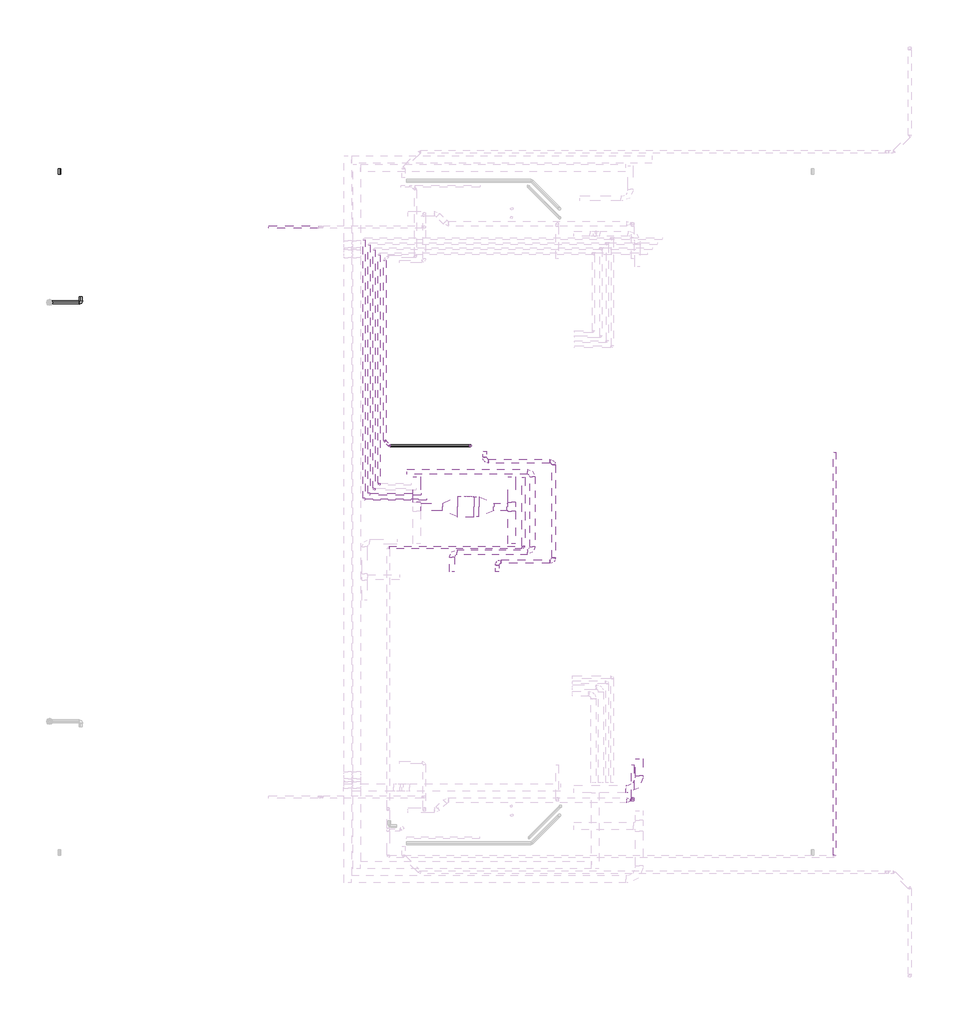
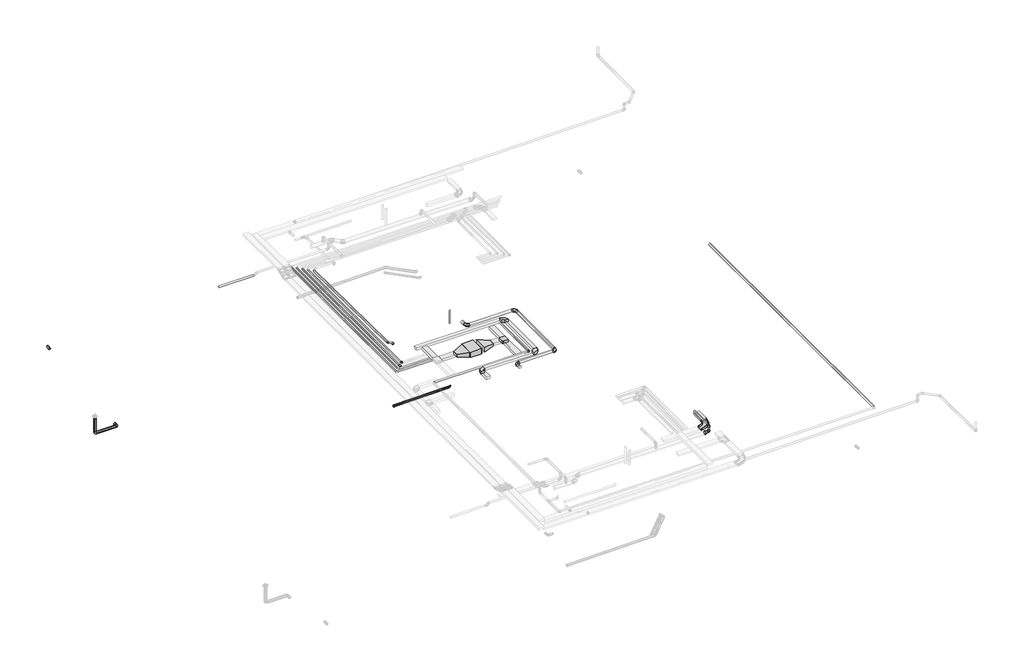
# One storey, part 3 of 5: 18 duct segments, 17 pipe segments, 13 duct fittings, 9 pipe fittings, 1 cable carrier fitting, 1 cable carrier segment, 1 proxy.
"""IFC4 building model written with IfcOpenShell, lengths in millimetres."""

from ifc_helpers import new_model, si_unit, point, frame, frame_2d, origin, place, context, project, spatial, polyline, circle_curve, trimmed, segment, composite_curve, outline, extrude, transform, mapped, element, save
from components import fc01_db58e849, m_codo_horizontal_de_canal_el_5b0e7b07, duct_fitting_9d984206, duct_fitting_e8ecb067, duct_fitting_4802cc83, ext_95de42ea, m_codo_rectangular_radio_apt_1_w_a605e9b7, m_codo_redondo_ext_1_d_fe658834, m_codo_redondo_ext_1_d_96ea52f9, pipe_fitting_8e92d537, pipe_fitting_e4fb672d, pipe_fitting_932eafa3, pipe_fitting_7b861d32, pipe_fitting_a8c499ec, pipe_fitting_f5d6ed74, pipe_fitting_3a68447e, pipe_fitting_87aeffad

model = new_model("IFC4")

# Units and contexts
model_context = context("Model", 3, world=origin())
ifc_project = project(units=[si_unit("LENGTHUNIT", "METRE", prefix="MILLI")], contexts=[model_context])

# Site, building, storey
site = spatial("IfcSite", under=ifc_project)
building = spatial("IfcBuilding", under=site)
storey = spatial("IfcBuildingStorey", under=building, Name="Nivell 03 P03_PP", Elevation=18660.0)

# Proxy
placement = place(None, origin())
fc01_shape = fc01_db58e849(model_context)
element("IfcBuildingElementProxy", 1, Name="ARC_MDL_ME_UI_FC_ConducteSostre : FC01", ObjectType="ARC_MDL_ME_UI_FC_ConducteSostre : FC01", at=placement, inside=storey, context=model_context, shape_type="MappedRepresentation", body=[
    mapped(fc01_shape, transform((9681.3112506, -4290.0827616, 21769.6198525), x_axis=(-5.108879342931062e-05, -0.9999999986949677, 0.0), y_axis=(0.9999999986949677, -5.108879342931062e-05, 0.0), z_axis=(0.0, 0.0, 1.0))),
])

# Cable carrier fitting
m_codo_horizontal_de_canal_el_shape = m_codo_horizontal_de_canal_el_5b0e7b07(model_context)
element("IfcCableCarrierFitting", 2, ObjectType="M_Codo horizontal de canal : EL", at=placement, inside=storey, context=model_context, shape_type="MappedRepresentation", body=[
    mapped(m_codo_horizontal_de_canal_el_shape, transform((16614.6624278, -15521.1304394, 21760.0), x_axis=(1.0, 0.0, 0.0), y_axis=(0.0, 1.0, 0.0), z_axis=(0.0, 0.0, 1.0))),
])

# Cable carrier segment
element("IfcCableCarrierSegment", 3, ObjectType="EL", at=placement, inside=storey, context=model_context, shape_type="SweptSolid", body=[
    extrude(outline(polyline([(16464.6624278, -14321.1304394), (16764.6624278, -14321.1304394), (16764.6624278, -14996.1304394), (16464.6624278, -14996.1304394), (16464.6624278, -14321.1304394)])), frame((0.0, 0.0, 21710.0), z_axis=(0.0, 0.0, 1.0), x_axis=(1.0, 0.0, 0.0)), (0.0, 0.0, 1.0), 100.0),
])

# Duct fittings
duct_fitting_shape = duct_fitting_9d984206(model_context)
element("IfcDuctFitting", 4, ObjectType="M_Transición redonda - Ángulo : EXT_45 graus", at=placement, inside=storey, context=model_context, shape_type="MappedRepresentation", body=[
    mapped(duct_fitting_shape, transform((16250.5896993, -15972.9719502, 21740.0), x_axis=(-1.0, 0.0, 0.0), y_axis=(0.0, -1.0, 0.0), z_axis=(0.0, 0.0, 1.0))),
])
duct_fitting_2_shape = duct_fitting_e8ecb067(model_context)
element("IfcDuctFitting", 5, ObjectType="M_Transición rectangular - Ángulo : EXT_45 graus", at=placement, inside=storey, context=model_context, shape_type="MappedRepresentation", body=[
    mapped(duct_fitting_2_shape, transform((9366.311258, -4289.9287549, 21927.1198525), x_axis=(-0.9999999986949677, 5.108879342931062e-05, 0.0), y_axis=(-5.108879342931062e-05, -0.9999999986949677, 0.0), z_axis=(0.0, 0.0, 1.0))),
])
duct_fitting_3_shape = duct_fitting_4802cc83(model_context)
element("IfcDuctFitting", 6, ObjectType="M_Transición rectangular - Ángulo : EXT_45 graus", at=placement, inside=storey, context=model_context, shape_type="MappedRepresentation", body=[
    mapped(duct_fitting_3_shape, transform((10216.57728, -4290.2068024, 21927.1198525), x_axis=(0.9999999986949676, -5.1088793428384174e-05, 0.0), y_axis=(5.1088793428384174e-05, 0.9999999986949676, 0.0), z_axis=(0.0, 0.0, 1.0))),
])
ext_shape = ext_95de42ea(model_context)
element("IfcDuctFitting", 7, ObjectType="M_Te rectangular : EXT", at=placement, inside=storey, context=model_context, shape_type="MappedRepresentation", body=[
    mapped(ext_shape, transform((11523.311255, -4289.9524808, 21825.8305344), x_axis=(0.0, -1.0, 0.0), y_axis=(1.0, 0.0, 0.0), z_axis=(0.0, 0.0, 1.0))),
])
m_codo_rectangular_radio_apt_1_w_shape = m_codo_rectangular_radio_apt_1_w_a605e9b7(model_context)
element("IfcDuctFitting", 8, ObjectType="M_Codo rectangular - Radio : EXT_1 W", at=placement, inside=storey, context=model_context, shape_type="MappedRepresentation", body=[
    mapped(m_codo_rectangular_radio_apt_1_w_shape, transform((12351.1206995, -6088.8306037, 21935.0), x_axis=(1.0, 0.0, 0.0), y_axis=(0.0, 1.0, 0.0), z_axis=(0.0, 0.0, 1.0))),
])
element("IfcDuctFitting", 9, ObjectType="M_Codo rectangular - Radio : EXT_1 W", at=placement, inside=storey, context=model_context, shape_type="MappedRepresentation", body=[
    mapped(m_codo_rectangular_radio_apt_1_w_shape, transform((9151.1206995, -6088.8306037, 21935.0), x_axis=(-1.0, 0.0, 0.0), y_axis=(0.0, -1.0, 0.0), z_axis=(0.0, 0.0, 1.0))),
])
element("IfcDuctFitting", 10, ObjectType="M_Codo rectangular - Radio : EXT_1 W", at=placement, inside=storey, context=model_context, shape_type="MappedRepresentation", body=[
    mapped(m_codo_rectangular_radio_apt_1_w_shape, transform((12351.1206995, -2888.8306037, 21935.0), x_axis=(0.0, 1.0, 0.0), y_axis=(-1.0, 0.0, 0.0), z_axis=(0.0, 0.0, 1.0))),
])
m_codo_redondo_ext_1_d_shape = m_codo_redondo_ext_1_d_fe658834(model_context)
element("IfcDuctFitting", 11, ObjectType="M_Codo redondo : EXT_1 D", at=placement, inside=storey, context=model_context, shape_type="MappedRepresentation", body=[
    mapped(m_codo_redondo_ext_1_d_shape, transform((10951.1206995, -6468.8306037, 21935.0), x_axis=(-1.0, 0.0, 0.0), y_axis=(0.0, -1.0, 0.0), z_axis=(0.0, 0.0, 1.0))),
])
element("IfcDuctFitting", 12, ObjectType="M_Codo redondo : EXT_1 D", at=placement, inside=storey, context=model_context, shape_type="MappedRepresentation", body=[
    mapped(m_codo_redondo_ext_1_d_shape, transform((13201.1206995, -6468.8306037, 21935.0), x_axis=(1.0, 0.0, 0.0), y_axis=(0.0, 1.0, 0.0), z_axis=(0.0, 0.0, 1.0))),
])
element("IfcDuctFitting", 13, ObjectType="M_Codo redondo : EXT_1 D", at=placement, inside=storey, context=model_context, shape_type="MappedRepresentation", body=[
    mapped(m_codo_redondo_ext_1_d_shape, transform((13201.1206995, -2468.8306037, 21935.0), x_axis=(0.0, 1.0, 0.0), y_axis=(-1.0, 0.0, 0.0), z_axis=(0.0, 0.0, 1.0))),
])
element("IfcDuctFitting", 14, ObjectType="M_Codo redondo : EXT_1 D", at=placement, inside=storey, context=model_context, shape_type="MappedRepresentation", body=[
    mapped(m_codo_redondo_ext_1_d_shape, transform((10451.1206995, -2468.8306037, 21935.0), x_axis=(0.0, -1.0, 0.0), y_axis=(1.0, 0.0, 0.0), z_axis=(0.0, 0.0, 1.0))),
])
m_codo_redondo_ext_1_d_2_shape = m_codo_redondo_ext_1_d_96ea52f9(model_context)
element("IfcDuctFitting", 15, ObjectType="M_Codo redondo : EXT_1 D", at=placement, inside=storey, context=model_context, shape_type="MappedRepresentation", body=[
    mapped(m_codo_redondo_ext_1_d_2_shape, transform((16350.5896993, -15972.9719502, 22110.0), x_axis=(0.0, -1.0, 0.0), y_axis=(0.0, 0.0, 1.0), z_axis=(-1.0, 0.0, 0.0))),
])
element("IfcDuctFitting", 16, ObjectType="M_Codo redondo : EXT_1 D", at=placement, inside=storey, context=model_context, shape_type="MappedRepresentation", body=[
    mapped(m_codo_redondo_ext_1_d_2_shape, transform((16350.5896993, -15972.9719502, 21740.0), x_axis=(0.0, 0.0, -1.0), y_axis=(1.0, 0.0, 0.0), z_axis=(0.0, -1.0, 0.0))),
])

# Duct segments
element("IfcDuctSegment", 17, ObjectType="EXT_Fibra de vidre rígida", at=placement, inside=storey, context=model_context, shape_type="SweptSolid", body=[
    extrude(outline(polyline([(9351.1206995, -6188.8306037), (9351.1206995, -5988.8306037), (12151.1206995, -5988.8306037), (12151.1206995, -6188.8306037), (9351.1206995, -6188.8306037)])), frame((0.0, 0.0, 21860.0), z_axis=(0.0, 0.0, 1.0), x_axis=(1.0, 0.0, 0.0)), (0.0, 0.0, 1.0), 150.0),
])
element("IfcDuctSegment", 18, ObjectType="EXT_Fibra de vidre rígida", at=placement, inside=storey, context=model_context, shape_type="SweptSolid", body=[
    extrude(outline(polyline([(12251.1206995, -3088.8306037), (12451.1206995, -3088.8306037), (12451.1206995, -5888.8306037), (12251.1206995, -5888.8306037), (12251.1206995, -3088.8306037)])), frame((0.0, 0.0, 21860.0), z_axis=(0.0, 0.0, 1.0), x_axis=(1.0, 0.0, 0.0)), (0.0, 0.0, 1.0), 150.0),
])
element("IfcDuctSegment", 19, ObjectType="EXT_Fibra de vidre rígida", at=placement, inside=storey, context=model_context, shape_type="SweptSolid", body=[
    extrude(outline(polyline([(9251.1206995, -6868.8306037), (9051.1206995, -6868.8306037), (9051.1206995, -6288.8306037), (9251.1206995, -6288.8306037), (9251.1206995, -6868.8306037)])), frame((0.0, 0.0, 21860.0), z_axis=(0.0, 0.0, 1.0), x_axis=(1.0, 0.0, 0.0)), (0.0, 0.0, 1.0), 150.0),
])
element("IfcDuctSegment", 20, ObjectType="EXT_Fibra de vidre rígida", at=placement, inside=storey, context=model_context, shape_type="SweptSolid", body=[
    extrude(outline(polyline([(7351.1206995, -2988.8306037), (7351.1206995, -2788.8306037), (12151.1206995, -2788.8306037), (12151.1206995, -2988.8306037), (7351.1206995, -2988.8306037)])), frame((0.0, 0.0, 21860.0), z_axis=(0.0, 0.0, 1.0), x_axis=(1.0, 0.0, 0.0)), (0.0, 0.0, 1.0), 150.0),
])
element("IfcDuctSegment", 21, ObjectType="EXT_Acer Galvanitzat - Rígid", at=placement, inside=storey, context=model_context, shape_type="SweptSolid", body=[
    extrude(outline(composite_curve([segment(trimmed(circle_curve(frame_2d((21935.0, 10951.1206995)), 75.0), [point((21935.0, 11026.1206995))], [point((22010.0, 10951.1206995))], False, "CARTESIAN"), True, "CONTINUOUS"), segment(trimmed(circle_curve(frame_2d((21935.0, 10951.1206995)), 75.0), [point((22010.0, 10951.1206995))], [point((21935.0, 10876.1206995))], False, "CARTESIAN"), True, "CONTINUOUS"), segment(trimmed(circle_curve(frame_2d((21935.0, 10951.1206995)), 75.0), [point((21935.0, 10876.1206995))], [point((21860.0, 10951.1206995))], False, "CARTESIAN"), True, "CONTINUOUS"), segment(trimmed(circle_curve(frame_2d((21935.0, 10951.1206995)), 75.0), [point((21860.0, 10951.1206995))], [point((21935.0, 11026.1206995))], False, "CARTESIAN"), True, "CONTINUOUS")], self_intersect=False)), frame((0.0, -6868.8306037, 0.0), z_axis=(0.0, 1.0, 0.0), x_axis=(0.0, 0.0, 1.0)), (0.0, 0.0, 1.0), 250.0),
])
element("IfcDuctSegment", 22, ObjectType="EXT_Acer Galvanitzat - Rígid", at=placement, inside=storey, context=model_context, shape_type="SweptSolid", body=[
    extrude(outline(composite_curve([segment(trimmed(circle_curve(frame_2d((-6468.8306037, 21935.0)), 75.0), [point((-6543.8306037, 21935.0))], [point((-6468.8306037, 22010.0))], False, "CARTESIAN"), True, "CONTINUOUS"), segment(trimmed(circle_curve(frame_2d((-6468.8306037, 21935.0)), 75.0), [point((-6468.8306037, 22010.0))], [point((-6393.8306037, 21935.0))], False, "CARTESIAN"), True, "CONTINUOUS"), segment(trimmed(circle_curve(frame_2d((-6468.8306037, 21935.0)), 75.0), [point((-6393.8306037, 21935.0))], [point((-6468.8306037, 21860.0))], False, "CARTESIAN"), True, "CONTINUOUS"), segment(trimmed(circle_curve(frame_2d((-6468.8306037, 21935.0)), 75.0), [point((-6468.8306037, 21860.0))], [point((-6543.8306037, 21935.0))], False, "CARTESIAN"), True, "CONTINUOUS")], self_intersect=False)), frame((11101.1206995, 0.0, 0.0), z_axis=(1.0, 0.0, 0.0), x_axis=(0.0, 1.0, 0.0)), (0.0, 0.0, 1.0), 1950.0),
])
element("IfcDuctSegment", 23, ObjectType="EXT_Acer Galvanitzat - Rígid", at=placement, inside=storey, context=model_context, shape_type="SweptSolid", body=[
    extrude(outline(composite_curve([segment(trimmed(circle_curve(frame_2d((21935.0, 13201.1206995)), 75.0), [point((21935.0, 13276.1206995))], [point((22010.0, 13201.1206995))], False, "CARTESIAN"), True, "CONTINUOUS"), segment(trimmed(circle_curve(frame_2d((21935.0, 13201.1206995)), 75.0), [point((22010.0, 13201.1206995))], [point((21935.0, 13126.1206995))], False, "CARTESIAN"), True, "CONTINUOUS"), segment(trimmed(circle_curve(frame_2d((21935.0, 13201.1206995)), 75.0), [point((21935.0, 13126.1206995))], [point((21860.0, 13201.1206995))], False, "CARTESIAN"), True, "CONTINUOUS"), segment(trimmed(circle_curve(frame_2d((21935.0, 13201.1206995)), 75.0), [point((21860.0, 13201.1206995))], [point((21935.0, 13276.1206995))], False, "CARTESIAN"), True, "CONTINUOUS")], self_intersect=False)), frame((0.0, -6318.8306037, 0.0), z_axis=(0.0, 1.0, 0.0), x_axis=(0.0, 0.0, 1.0)), (0.0, 0.0, 1.0), 3700.0),
])
element("IfcDuctSegment", 24, ObjectType="EXT_Acer Galvanitzat - Rígid", at=placement, inside=storey, context=model_context, shape_type="SweptSolid", body=[
    extrude(outline(composite_curve([segment(trimmed(circle_curve(frame_2d((-2468.8306037, 21935.0)), 75.0), [point((-2393.8306037, 21935.0))], [point((-2468.8306037, 21860.0))], False, "CARTESIAN"), True, "CONTINUOUS"), segment(trimmed(circle_curve(frame_2d((-2468.8306037, 21935.0)), 75.0), [point((-2468.8306037, 21860.0))], [point((-2543.8306037, 21935.0))], False, "CARTESIAN"), True, "CONTINUOUS"), segment(trimmed(circle_curve(frame_2d((-2468.8306037, 21935.0)), 75.0), [point((-2543.8306037, 21935.0))], [point((-2468.8306037, 22010.0))], False, "CARTESIAN"), True, "CONTINUOUS"), segment(trimmed(circle_curve(frame_2d((-2468.8306037, 21935.0)), 75.0), [point((-2468.8306037, 22010.0))], [point((-2393.8306037, 21935.0))], False, "CARTESIAN"), True, "CONTINUOUS")], self_intersect=False)), frame((10601.1206995, 0.0, 0.0), z_axis=(1.0, 0.0, 0.0), x_axis=(0.0, 1.0, 0.0)), (0.0, 0.0, 1.0), 2450.0),
])
element("IfcDuctSegment", 25, ObjectType="EXT_Acer Galvanitzat - Rígid", at=placement, inside=storey, context=model_context, shape_type="SweptSolid", body=[
    extrude(outline(composite_curve([segment(trimmed(circle_curve(frame_2d((21935.0, 10451.1206995)), 75.0), [point((21935.0, 10526.1206995))], [point((22010.0, 10451.1206995))], False, "CARTESIAN"), True, "CONTINUOUS"), segment(trimmed(circle_curve(frame_2d((21935.0, 10451.1206995)), 75.0), [point((22010.0, 10451.1206995))], [point((21935.0, 10376.1206995))], False, "CARTESIAN"), True, "CONTINUOUS"), segment(trimmed(circle_curve(frame_2d((21935.0, 10451.1206995)), 75.0), [point((21935.0, 10376.1206995))], [point((21860.0, 10451.1206995))], False, "CARTESIAN"), True, "CONTINUOUS"), segment(trimmed(circle_curve(frame_2d((21935.0, 10451.1206995)), 75.0), [point((21860.0, 10451.1206995))], [point((21935.0, 10526.1206995))], False, "CARTESIAN"), True, "CONTINUOUS")], self_intersect=False)), frame((0.0, -2318.8306037, 0.0), z_axis=(0.0, 1.0, 0.0), x_axis=(0.0, 0.0, 1.0)), (0.0, 0.0, 1.0), 250.0),
])
element("IfcDuctSegment", 26, ObjectType="EXT_Acer Galvanitzat - Rígid", at=placement, inside=storey, context=model_context, shape_type="SweptSolid", body=[
    extrude(outline(composite_curve([segment(trimmed(circle_curve(frame_2d((6856.5337216, 21610.0)), 50.0), [point((6906.5337216, 21610.0))], [point((6856.5337216, 21560.0))], False, "CARTESIAN"), True, "CONTINUOUS"), segment(trimmed(circle_curve(frame_2d((6856.5337216, 21610.0)), 50.0), [point((6856.5337216, 21560.0))], [point((6806.5337216, 21610.0))], False, "CARTESIAN"), True, "CONTINUOUS"), segment(trimmed(circle_curve(frame_2d((6856.5337216, 21610.0)), 50.0), [point((6806.5337216, 21610.0))], [point((6856.5337216, 21660.0))], False, "CARTESIAN"), True, "CONTINUOUS"), segment(trimmed(circle_curve(frame_2d((6856.5337216, 21610.0)), 50.0), [point((6856.5337216, 21660.0))], [point((6906.5337216, 21610.0))], False, "CARTESIAN"), True, "CONTINUOUS")], self_intersect=False)), frame((1850.5896993, 0.0, 0.0), z_axis=(1.0, 0.0, 0.0), x_axis=(0.0, 1.0, 0.0)), (0.0, 0.0, 1.0), 1972.5786438),
])
element("IfcDuctSegment", 27, ObjectType="EXT_Acer Galvanitzat - Rígid", at=placement, inside=storey, context=model_context, shape_type="SweptSolid", body=[
    extrude(outline(composite_curve([segment(trimmed(circle_curve(frame_2d((22110.0, 16350.5896993)), 50.0), [point((22110.0, 16400.5896993))], [point((22160.0, 16350.5896993))], False, "CARTESIAN"), True, "CONTINUOUS"), segment(trimmed(circle_curve(frame_2d((22110.0, 16350.5896993)), 50.0), [point((22160.0, 16350.5896993))], [point((22110.0, 16300.5896993))], False, "CARTESIAN"), True, "CONTINUOUS"), segment(trimmed(circle_curve(frame_2d((22110.0, 16350.5896993)), 50.0), [point((22110.0, 16300.5896993))], [point((22060.0, 16350.5896993))], False, "CARTESIAN"), True, "CONTINUOUS"), segment(trimmed(circle_curve(frame_2d((22110.0, 16350.5896993)), 50.0), [point((22060.0, 16350.5896993))], [point((22110.0, 16400.5896993))], False, "CARTESIAN"), True, "CONTINUOUS")], self_intersect=False)), frame((0.0, -15872.9719502, 0.0), z_axis=(0.0, 1.0, 0.0), x_axis=(0.0, 0.0, 1.0)), (0.0, 0.0, 1.0), 1301.48805),
])
element("IfcDuctSegment", 28, ObjectType="EXT_Acer Galvanitzat - Rígid", at=placement, inside=storey, context=model_context, shape_type="SweptSolid", body=[
    extrude(outline(composite_curve([segment(trimmed(circle_curve(frame_2d((16350.5896993, -15972.9719502)), 50.0), [point((16400.5896993, -15972.9719502))], [point((16350.5896993, -16022.9719502))], False, "CARTESIAN"), True, "CONTINUOUS"), segment(trimmed(circle_curve(frame_2d((16350.5896993, -15972.9719502)), 50.0), [point((16350.5896993, -16022.9719502))], [point((16300.5896993, -15972.9719502))], False, "CARTESIAN"), True, "CONTINUOUS"), segment(trimmed(circle_curve(frame_2d((16350.5896993, -15972.9719502)), 50.0), [point((16300.5896993, -15972.9719502))], [point((16350.5896993, -15922.9719502))], False, "CARTESIAN"), True, "CONTINUOUS"), segment(trimmed(circle_curve(frame_2d((16350.5896993, -15972.9719502)), 50.0), [point((16350.5896993, -15922.9719502))], [point((16400.5896993, -15972.9719502))], False, "CARTESIAN"), True, "CONTINUOUS")], self_intersect=False)), frame((0.0, 0.0, 21840.0), z_axis=(0.0, 0.0, 1.0), x_axis=(1.0, 0.0, 0.0)), (0.0, 0.0, 1.0), 170.0),
])
element("IfcDuctSegment", 29, ObjectType="EXT_Planxa galvanitzada", at=placement, inside=storey, context=model_context, shape_type="SweptSolid", body=[
    extrude(outline(polyline([(7921.1541547, -4439.9850919), (7921.1694813, -4139.9850923), (8762.765525, -4140.0280884), (8762.7501984, -4440.028088), (7921.1541547, -4439.9850919)])), frame((0.0, 0.0, 21852.1198525), z_axis=(0.0, 0.0, 1.0), x_axis=(1.0, 0.0, 0.0)), (0.0, 0.0, 1.0), 150.0),
])
element("IfcDuctSegment", 30, ObjectType="EXT_Planxa galvanitzada", at=placement, inside=storey, context=model_context, shape_type="SweptSolid", body=[
    extrude(outline(polyline([(0.0, -300.0000001), (0.0, 0.0), (530.6650356, 0.0), (530.6650356, -300.0000001), (0.0, -300.0000001)])), frame((11341.1284595, -4439.9556573, 21751.1816596), z_axis=(0.09665101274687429, 4.254610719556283e-05, 0.9953183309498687), x_axis=(-0.9953182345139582, -0.00043814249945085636, 0.09665102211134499)), (0.0, 0.0, 1.0), 150.0),
])
element("IfcDuctSegment", 31, ObjectType="EXT_Planxa galvanitzada", at=placement, inside=storey, context=model_context, shape_type="SweptSolid", body=[
    extrude(outline(polyline([(11673.311255, -4114.9524808), (11373.311255, -4114.9524808), (11373.311255, -3089.9878585), (11673.311255, -3089.9878585), (11673.311255, -4114.9524808)])), frame((0.0, 0.0, 21750.8305344), z_axis=(0.0, 0.0, 1.0), x_axis=(1.0, 0.0, 0.0)), (0.0, 0.0, 1.0), 150.0),
])
element("IfcDuctSegment", 32, ObjectType="EXT_Planxa galvanitzada", at=placement, inside=storey, context=model_context, shape_type="SweptSolid", body=[
    extrude(outline(polyline([(11373.311255, -4464.9524808), (11673.311255, -4464.9524808), (11673.311255, -5765.0566725), (11373.311255, -5765.0566725), (11373.311255, -4464.9524808)])), frame((0.0, 0.0, 21750.8305344), z_axis=(0.0, 0.0, 1.0), x_axis=(1.0, 0.0, 0.0)), (0.0, 0.0, 1.0), 150.0),
])
element("IfcDuctSegment", 33, ObjectType="EXT_Planxa galvanitzada", at=placement, inside=storey, context=model_context, shape_type="SweptSolid", body=[
    extrude(outline(polyline([(7896.1618177, -4114.9902017), (7596.1618177, -4114.9902002), (7596.1618227, -3089.9878578), (7896.1618227, -3089.9878592), (7896.1618177, -4114.9902017)])), frame((0.0, 0.0, 21852.1198525), z_axis=(0.0, 0.0, 1.0), x_axis=(1.0, 0.0, 0.0)), (0.0, 0.0, 1.0), 150.0),
])
element("IfcDuctSegment", 34, ObjectType="EXT_Planxa galvanitzada", at=placement, inside=storey, context=model_context, shape_type="SweptSolid", body=[
    extrude(outline(polyline([(10023.2908097, -4690.1969281), (10023.3316807, -3890.1969292), (10216.5977155, -3890.2068029), (10216.5568445, -4690.2068019), (10023.2908097, -4690.1969281)])), frame((0.0, 0.0, 21789.6198525), z_axis=(0.0, 0.0, 1.0), x_axis=(1.0, 0.0, 0.0)), (0.0, 0.0, 1.0), 275.0),
])

# Pipe fittings
pipe_fitting_shape = pipe_fitting_8e92d537(model_context)
element("IfcPipeFitting", 35, ObjectType="M_Codo - Genérico : Estándar", at=placement, inside=storey, context=model_context, shape_type="MappedRepresentation", body=[
    mapped(pipe_fitting_shape, transform((-6884.6265174, 3853.7508926, 17764.0), x_axis=(0.0, 0.0, -1.0), y_axis=(1.0, 0.0, 0.0), z_axis=(0.0, -1.0, 0.0))),
])
pipe_fitting_2_shape = pipe_fitting_e4fb672d(model_context)
element("IfcPipeFitting", 36, ObjectType="M_Transición - Genérica : Estándar", at=placement, inside=storey, context=model_context, shape_type="MappedRepresentation", body=[
    mapped(pipe_fitting_2_shape, transform((-6884.6265174, 3853.7508926, 18658.0), x_axis=(0.0, 0.0, -1.0), y_axis=(-1.0, 0.0, 0.0), z_axis=(0.0, 1.0, 0.0))),
])
pipe_fitting_3_shape = pipe_fitting_932eafa3(model_context)
element("IfcPipeFitting", 37, ObjectType="M_Codo - Genérico : Estándar", at=placement, inside=storey, context=model_context, shape_type="MappedRepresentation", body=[
    mapped(pipe_fitting_3_shape, transform((-5639.5711916, 3853.7508926, 17751.5494467), x_axis=(0.9999500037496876, 0.0, -0.009999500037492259), y_axis=(-9.998500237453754e-05, 0.9999500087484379, -0.00999850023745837), z_axis=(0.00999900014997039, 0.009999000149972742, 0.9999000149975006))),
])
pipe_fitting_4_shape = pipe_fitting_7b861d32(model_context)
element("IfcPipeFitting", 38, ObjectType="M_Codo - Genérico : Estándar", at=placement, inside=storey, context=model_context, shape_type="MappedRepresentation", body=[
    mapped(pipe_fitting_4_shape, transform((6477.6345979, -1666.8281442, 21829.3801167), x_axis=(0.0, -0.9999500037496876, 0.00999950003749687), y_axis=(0.9999914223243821, 4.1416859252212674e-05, 0.004141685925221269), z_axis=(-0.004141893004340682, 0.009999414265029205, 0.9999414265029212))),
])
pipe_fitting_5_shape = pipe_fitting_a8c499ec(model_context)
element("IfcPipeFitting", 39, ObjectType="M_Codo - Genérico : Estándar", at=placement, inside=storey, context=model_context, shape_type="MappedRepresentation", body=[
    mapped(pipe_fitting_5_shape, transform((9883.1860519, -1852.0054626, 18113.2031678), x_axis=(0.9999500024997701, 4.9997101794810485e-05, 0.009999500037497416), y_axis=(-0.009999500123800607, 1.476482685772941e-06, 0.9999500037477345), z_axis=(4.997983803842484e-05, -0.9999999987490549, 1.976354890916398e-06))),
])
pipe_fitting_6_shape = pipe_fitting_f5d6ed74(model_context)
element("IfcPipeFitting", 40, ObjectType="M_Codo - Genérico : Estándar", at=placement, inside=storey, context=model_context, shape_type="MappedRepresentation", body=[
    mapped(pipe_fitting_6_shape, transform((6662.9562575, -1852.1498037, 21832.0009608), x_axis=(0.707071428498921, -0.7070714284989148, 0.00999950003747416), y_axis=(0.7070714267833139, 0.7071300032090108, 0.004141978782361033), z_axis=(-0.009999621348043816, 0.004141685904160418, 0.9999414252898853))),
])
pipe_fitting_7_shape = pipe_fitting_3a68447e(model_context)
element("IfcPipeFitting", 41, ObjectType="M_Codo - Genérico : Estándar", at=placement, inside=storey, context=model_context, shape_type="MappedRepresentation", body=[
    mapped(pipe_fitting_7_shape, transform((6245.7381883, -3394.9253722, 21772.5), x_axis=(0.0, -1.0, 0.0), y_axis=(1.0, 0.0, 0.0), z_axis=(0.0, 0.0, 1.0))),
])
element("IfcPipeFitting", 42, ObjectType="M_Codo - Genérico : Estándar", at=placement, inside=storey, context=model_context, shape_type="MappedRepresentation", body=[
    mapped(pipe_fitting_7_shape, transform((6045.7381883, -3594.9253722, 21772.5), x_axis=(0.0, -1.0, 0.0), y_axis=(1.0, 0.0, 0.0), z_axis=(0.0, 0.0, 1.0))),
])
pipe_fitting_8_shape = pipe_fitting_87aeffad(model_context)
element("IfcPipeFitting", 43, ObjectType="M_Codo - Genérico : Estándar", at=placement, inside=storey, context=model_context, shape_type="MappedRepresentation", body=[
    mapped(pipe_fitting_8_shape, transform((11998.0330075, -5912.8731458, 21960.8), x_axis=(1.0, 0.0, 0.0), y_axis=(0.0, 1.0, 0.0), z_axis=(0.0, 0.0, 1.0))),
])

# Pipe segments
element("IfcPipeSegment", 44, ObjectType="PVC_Baixant", at=placement, inside=storey, context=model_context, shape_type="SweptSolid", body=[
    extrude(outline(composite_curve([segment(trimmed(circle_curve(frame_2d((0.0, -62.5)), 62.5), [point((0.0, -125.0))], [point((-62.5, -62.5))], False, "CARTESIAN"), True, "CONTINUOUS"), segment(trimmed(circle_curve(frame_2d((0.0, -62.5)), 62.5), [point((-62.5, -62.5))], [point((0.0, 0.0))], False, "CARTESIAN"), True, "CONTINUOUS"), segment(trimmed(circle_curve(frame_2d((0.0, -62.5)), 62.5), [point((0.0, 0.0))], [point((62.5, -62.5))], False, "CARTESIAN"), True, "CONTINUOUS"), segment(trimmed(circle_curve(frame_2d((0.0, -62.5)), 62.5), [point((62.5, -62.5))], [point((0.0, -125.0))], False, "CARTESIAN"), True, "CONTINUOUS")], self_intersect=False)), frame((-5710.9979776, 3916.2508926, 17752.2637146), z_axis=(-0.9999500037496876, 0.0, 0.00999950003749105), x_axis=(0.00999950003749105, 0.0, 0.9999500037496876)), (0.0, 0.0, 1.0), 1102.9605229),
])
element("IfcPipeSegment", 45, ObjectType="PVC_Baixant", at=placement, inside=storey, context=model_context, shape_type="SweptSolid", body=[
    extrude(outline(composite_curve([segment(trimmed(circle_curve(frame_2d((-6884.6265174, 3853.7508926)), 62.5), [point((-6822.1265174, 3853.7508926))], [point((-6884.6265174, 3791.2508926))], False, "CARTESIAN"), True, "CONTINUOUS"), segment(trimmed(circle_curve(frame_2d((-6884.6265174, 3853.7508926)), 62.5), [point((-6884.6265174, 3791.2508926))], [point((-6947.1265174, 3853.7508926))], False, "CARTESIAN"), True, "CONTINUOUS"), segment(trimmed(circle_curve(frame_2d((-6884.6265174, 3853.7508926)), 62.5), [point((-6947.1265174, 3853.7508926))], [point((-6884.6265174, 3916.2508926))], False, "CARTESIAN"), True, "CONTINUOUS"), segment(trimmed(circle_curve(frame_2d((-6884.6265174, 3853.7508926)), 62.5), [point((-6884.6265174, 3916.2508926))], [point((-6822.1265174, 3853.7508926))], False, "CARTESIAN"), True, "CONTINUOUS")], self_intersect=False)), frame((0.0, 0.0, 17834.7266968), z_axis=(0.0, 0.0, 1.0), x_axis=(1.0, 0.0, 0.0)), (0.0, 0.0, 1.0), 790.7295532),
])
element("IfcPipeSegment", 46, ObjectType="PVC_Baixant", at=placement, inside=storey, context=model_context, shape_type="SweptSolid", body=[
    extrude(outline(composite_curve([segment(trimmed(circle_curve(frame_2d((0.0, -62.5000001)), 62.5), [point((62.5, -62.5000001))], [point((0.0, -125.0))], False, "CARTESIAN"), True, "CONTINUOUS"), segment(trimmed(circle_curve(frame_2d((0.0, -62.5000001)), 62.5), [point((0.0, -125.0))], [point((-62.5, -62.5000001))], False, "CARTESIAN"), True, "CONTINUOUS"), segment(trimmed(circle_curve(frame_2d((0.0, -62.5000001)), 62.5), [point((-62.5, -62.5000001))], [point((0.0, 0.0))], False, "CARTESIAN"), True, "CONTINUOUS"), segment(trimmed(circle_curve(frame_2d((0.0, -62.5000001)), 62.5), [point((0.0, 0.0))], [point((62.5, -62.5000001))], False, "CARTESIAN"), True, "CONTINUOUS")], self_intersect=False)), frame((-5639.5711916, 4070.3766612, 17811.886314), z_axis=(0.0, -0.9999500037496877, 0.009999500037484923), x_axis=(1.0, 0.0, 0.0)), (0.0, 0.0, 1.0), 144.5812423),
])
element("IfcPipeSegment", 47, ObjectType="PVC_Baixant", at=placement, inside=storey, context=model_context, shape_type="SweptSolid", body=[
    extrude(outline(composite_curve([segment(trimmed(circle_curve(frame_2d((0.0, 45.0)), 45.0), [point((-45.0, 45.0))], [point((0.0, 90.0))], False, "CARTESIAN"), True, "CONTINUOUS"), segment(trimmed(circle_curve(frame_2d((0.0, 45.0)), 45.0), [point((0.0, 90.0))], [point((45.0, 45.0))], False, "CARTESIAN"), True, "CONTINUOUS"), segment(trimmed(circle_curve(frame_2d((0.0, 45.0)), 45.0), [point((45.0, 45.0))], [point((0.0, 0.0))], False, "CARTESIAN"), True, "CONTINUOUS"), segment(trimmed(circle_curve(frame_2d((0.0, 45.0)), 45.0), [point((0.0, 0.0))], [point((-45.0, 45.0))], False, "CARTESIAN"), True, "CONTINUOUS")], self_intersect=False)), frame((9883.161624, -1896.9886923, 21916.0676156), z_axis=(3.596218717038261e-05, -6.996116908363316e-06, 0.9999999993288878), x_axis=(0.9999999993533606, 2.5159607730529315e-10, -3.596218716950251e-05)), (0.0, 0.0, 1.0), 743.9320611),
])
element("IfcPipeSegment", 48, ObjectType="PVC_Baixant", at=placement, inside=storey, context=model_context, shape_type="SweptSolid", body=[
    extrude(outline(composite_curve([segment(trimmed(circle_curve(frame_2d((0.0, -45.0)), 45.0), [point((44.9977504, -44.550045))], [point((0.449955, -89.9977504))], False, "CARTESIAN"), True, "CONTINUOUS"), segment(trimmed(circle_curve(frame_2d((0.0, -45.0)), 45.0), [point((0.449955, -89.9977504))], [point((-44.9977503, -45.449955))], False, "CARTESIAN"), True, "CONTINUOUS"), segment(trimmed(circle_curve(frame_2d((0.0, -45.0)), 45.0), [point((-44.9977503, -45.449955))], [point((-0.449955, -0.0022496))], False, "CARTESIAN"), True, "CONTINUOUS"), segment(trimmed(circle_curve(frame_2d((0.0, -45.0)), 45.0), [point((-0.449955, -0.0022496))], [point((44.9977504, -44.550045))], False, "CARTESIAN"), True, "CONTINUOUS")], self_intersect=False)), frame((6492.9768756, -1681.5340894, 21874.59259), z_axis=(0.7070714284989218, -0.707071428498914, 0.009999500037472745), x_axis=(0.7071421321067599, 0.7070007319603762, -0.009998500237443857)), (0.0, 0.0, 1.0), 218.6992899),
])
element("IfcPipeSegment", 49, ObjectType="PVC_Baixant", at=placement, inside=storey, context=model_context, shape_type="SweptSolid", body=[
    extrude(outline(composite_curve([segment(trimmed(circle_curve(frame_2d((0.0, 45.0)), 45.0), [point((0.2250066, 0.0005626))], [point((-44.9994375, 44.7749933))], False, "CARTESIAN"), True, "CONTINUOUS"), segment(trimmed(circle_curve(frame_2d((0.0, 45.0)), 45.0), [point((-44.9994375, 44.7749933))], [point((-0.2250066, 89.9994375))], False, "CARTESIAN"), True, "CONTINUOUS"), segment(trimmed(circle_curve(frame_2d((0.0, 45.0)), 45.0), [point((-0.2250066, 89.9994375))], [point((44.9994375, 45.2250066))], False, "CARTESIAN"), True, "CONTINUOUS"), segment(trimmed(circle_curve(frame_2d((0.0, 45.0)), 45.0), [point((44.9994375, 45.2250066))], [point((0.2250066, 0.0005626))], False, "CARTESIAN"), True, "CONTINUOUS")], self_intersect=False)), frame((6684.6675762, -1897.1648248, 18081.4429784), z_axis=(0.9999500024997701, 4.9997101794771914e-05, 0.009999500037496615), x_axis=(0.00999962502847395, -0.004999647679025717, -0.9999375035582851)), (0.0, 0.0, 1.0), 3146.8134725),
])
element("IfcPipeSegment", 50, ObjectType="PPR_CLI_Aquatherm Blue Pipe", at=placement, inside=storey, context=model_context, shape_type="SweptSolid", body=[
    extrude(outline(composite_curve([segment(trimmed(circle_curve(frame_2d((21772.5, 6245.7381883)), 37.5), [point((21772.5, 6283.2381883))], [point((21810.0, 6245.7381883))], False, "CARTESIAN"), True, "CONTINUOUS"), segment(trimmed(circle_curve(frame_2d((21772.5, 6245.7381883)), 37.5), [point((21810.0, 6245.7381883))], [point((21772.5, 6208.2381883))], False, "CARTESIAN"), True, "CONTINUOUS"), segment(trimmed(circle_curve(frame_2d((21772.5, 6245.7381883)), 37.5), [point((21772.5, 6208.2381883))], [point((21735.0, 6245.7381883))], False, "CARTESIAN"), True, "CONTINUOUS"), segment(trimmed(circle_curve(frame_2d((21772.5, 6245.7381883)), 37.5), [point((21735.0, 6245.7381883))], [point((21772.5, 6283.2381883))], False, "CARTESIAN"), True, "CONTINUOUS")], self_intersect=False)), frame((0.0, -3349.4878722, 0.0), z_axis=(0.0, 1.0, 0.0), x_axis=(0.0, 0.0, 1.0)), (0.0, 0.0, 1.0), 9098.2931269),
])
element("IfcPipeSegment", 51, ObjectType="PPR_CLI_Aquatherm Blue Pipe", at=placement, inside=storey, context=model_context, shape_type="SweptSolid", body=[
    extrude(outline(composite_curve([segment(trimmed(circle_curve(frame_2d((21772.5, 6045.7381883)), 37.5), [point((21772.5, 6083.2381883))], [point((21810.0, 6045.7381883))], False, "CARTESIAN"), True, "CONTINUOUS"), segment(trimmed(circle_curve(frame_2d((21772.5, 6045.7381883)), 37.5), [point((21810.0, 6045.7381883))], [point((21772.5, 6008.2381883))], False, "CARTESIAN"), True, "CONTINUOUS"), segment(trimmed(circle_curve(frame_2d((21772.5, 6045.7381883)), 37.5), [point((21772.5, 6008.2381883))], [point((21735.0, 6045.7381883))], False, "CARTESIAN"), True, "CONTINUOUS"), segment(trimmed(circle_curve(frame_2d((21772.5, 6045.7381883)), 37.5), [point((21735.0, 6045.7381883))], [point((21772.5, 6083.2381883))], False, "CARTESIAN"), True, "CONTINUOUS")], self_intersect=False)), frame((0.0, -3549.4878722, 0.0), z_axis=(0.0, 1.0, 0.0), x_axis=(0.0, 0.0, 1.0)), (0.0, 0.0, 1.0), 9498.2931269),
])
element("IfcPipeSegment", 52, ObjectType="PPR_CLI_Aquatherm Blue Pipe", at=placement, inside=storey, context=model_context, shape_type="SweptSolid", body=[
    extrude(outline(composite_curve([segment(trimmed(circle_curve(frame_2d((21772.5, 5845.7381883)), 37.5), [point((21772.5, 5883.2381883))], [point((21810.0, 5845.7381883))], False, "CARTESIAN"), True, "CONTINUOUS"), segment(trimmed(circle_curve(frame_2d((21772.5, 5845.7381883)), 37.5), [point((21810.0, 5845.7381883))], [point((21772.5, 5808.2381883))], False, "CARTESIAN"), True, "CONTINUOUS"), segment(trimmed(circle_curve(frame_2d((21772.5, 5845.7381883)), 37.5), [point((21772.5, 5808.2381883))], [point((21735.0, 5845.7381883))], False, "CARTESIAN"), True, "CONTINUOUS"), segment(trimmed(circle_curve(frame_2d((21772.5, 5845.7381883)), 37.5), [point((21735.0, 5845.7381883))], [point((21772.5, 5883.2381883))], False, "CARTESIAN"), True, "CONTINUOUS")], self_intersect=False)), frame((0.0, -3749.4878722, 0.0), z_axis=(0.0, 1.0, 0.0), x_axis=(0.0, 0.0, 1.0)), (0.0, 0.0, 1.0), 9898.2931269),
])
element("IfcPipeSegment", 53, ObjectType="PPR_CLI_Aquatherm Blue Pipe", at=placement, inside=storey, context=model_context, shape_type="SweptSolid", body=[
    extrude(outline(composite_curve([segment(trimmed(circle_curve(frame_2d((21772.5, 5645.7381883)), 37.5), [point((21772.5, 5683.2381883))], [point((21810.0, 5645.7381883))], False, "CARTESIAN"), True, "CONTINUOUS"), segment(trimmed(circle_curve(frame_2d((21772.5, 5645.7381883)), 37.5), [point((21810.0, 5645.7381883))], [point((21772.5, 5608.2381883))], False, "CARTESIAN"), True, "CONTINUOUS"), segment(trimmed(circle_curve(frame_2d((21772.5, 5645.7381883)), 37.5), [point((21772.5, 5608.2381883))], [point((21735.0, 5645.7381883))], False, "CARTESIAN"), True, "CONTINUOUS"), segment(trimmed(circle_curve(frame_2d((21772.5, 5645.7381883)), 37.5), [point((21735.0, 5645.7381883))], [point((21772.5, 5683.2381883))], False, "CARTESIAN"), True, "CONTINUOUS")], self_intersect=False)), frame((0.0, -3949.4878722, 0.0), z_axis=(0.0, 1.0, 0.0), x_axis=(0.0, 0.0, 1.0)), (0.0, 0.0, 1.0), 10298.2931269),
])
element("IfcPipeSegment", 54, ObjectType="PPR_CLI_Aquatherm Blue Pipe", at=placement, inside=storey, context=model_context, shape_type="SweptSolid", body=[
    extrude(outline(composite_curve([segment(trimmed(circle_curve(frame_2d((-3794.9253722, 21772.5)), 37.5), [point((-3832.4253722, 21772.5))], [point((-3794.9253722, 21810.0))], False, "CARTESIAN"), True, "CONTINUOUS"), segment(trimmed(circle_curve(frame_2d((-3794.9253722, 21772.5)), 37.5), [point((-3794.9253722, 21810.0))], [point((-3757.4253722, 21772.5))], False, "CARTESIAN"), True, "CONTINUOUS"), segment(trimmed(circle_curve(frame_2d((-3794.9253722, 21772.5)), 37.5), [point((-3757.4253722, 21772.5))], [point((-3794.9253722, 21735.0))], False, "CARTESIAN"), True, "CONTINUOUS"), segment(trimmed(circle_curve(frame_2d((-3794.9253722, 21772.5)), 37.5), [point((-3794.9253722, 21735.0))], [point((-3832.4253722, 21772.5))], False, "CARTESIAN"), True, "CONTINUOUS")], self_intersect=False)), frame((5891.1756883, 0.0, 0.0), z_axis=(1.0, 0.0, 0.0), x_axis=(0.0, 1.0, 0.0)), (0.0, 0.0, 1.0), 2034.603417),
])
element("IfcPipeSegment", 55, ObjectType="PPR_CLI_Aquatherm Blue Pipe", at=placement, inside=storey, context=model_context, shape_type="SweptSolid", body=[
    extrude(outline(composite_curve([segment(trimmed(circle_curve(frame_2d((-3994.9253722, 21772.5)), 37.5), [point((-4032.4253722, 21772.5))], [point((-3994.9253722, 21810.0))], False, "CARTESIAN"), True, "CONTINUOUS"), segment(trimmed(circle_curve(frame_2d((-3994.9253722, 21772.5)), 37.5), [point((-3994.9253722, 21810.0))], [point((-3957.4253722, 21772.5))], False, "CARTESIAN"), True, "CONTINUOUS"), segment(trimmed(circle_curve(frame_2d((-3994.9253722, 21772.5)), 37.5), [point((-3957.4253722, 21772.5))], [point((-3994.9253722, 21735.0))], False, "CARTESIAN"), True, "CONTINUOUS"), segment(trimmed(circle_curve(frame_2d((-3994.9253722, 21772.5)), 37.5), [point((-3994.9253722, 21735.0))], [point((-4032.4253722, 21772.5))], False, "CARTESIAN"), True, "CONTINUOUS")], self_intersect=False)), frame((5691.1756883, 0.0, 0.0), z_axis=(1.0, 0.0, 0.0), x_axis=(0.0, 1.0, 0.0)), (0.0, 0.0, 1.0), 2434.603417),
])
element("IfcPipeSegment", 56, ObjectType="PVC_Baixant", at=placement, inside=storey, context=model_context, shape_type="SweptSolid", body=[
    extrude(outline(composite_curve([segment(trimmed(circle_curve(frame_2d((0.0, -45.0)), 45.0), [point((45.0, -45.0))], [point((0.0, -90.0000001))], False, "CARTESIAN"), True, "CONTINUOUS"), segment(trimmed(circle_curve(frame_2d((0.0, -45.0)), 45.0), [point((0.0, -90.0000001))], [point((-45.0, -45.0))], False, "CARTESIAN"), True, "CONTINUOUS"), segment(trimmed(circle_curve(frame_2d((0.0, -45.0)), 45.0), [point((-45.0, -45.0))], [point((0.0, 0.0))], False, "CARTESIAN"), True, "CONTINUOUS"), segment(trimmed(circle_curve(frame_2d((0.0, -45.0)), 45.0), [point((0.0, 0.0))], [point((45.0, -45.0))], False, "CARTESIAN"), True, "CONTINUOUS")], self_intersect=False)), frame((6477.6345979, 5540.5178488, 21802.3089068), z_axis=(0.0, -0.9999500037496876, 0.009999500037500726), x_axis=(1.0, 0.0, 0.0)), (0.0, 0.0, 1.0), 7185.5580094),
])
element("IfcPipeSegment", 57, ObjectType="AN_CI", at=placement, inside=storey, context=model_context, shape_type="SweptSolid", body=[
    extrude(outline(composite_curve([segment(trimmed(circle_curve(frame_2d((-5912.8731458, 21960.8)), 50.8), [point((-5963.6731458, 21960.8))], [point((-5912.8731458, 22011.6))], False, "CARTESIAN"), True, "CONTINUOUS"), segment(trimmed(circle_curve(frame_2d((-5912.8731458, 21960.8)), 50.8), [point((-5912.8731458, 22011.6))], [point((-5862.0731458, 21960.8))], False, "CARTESIAN"), True, "CONTINUOUS"), segment(trimmed(circle_curve(frame_2d((-5912.8731458, 21960.8)), 50.8), [point((-5862.0731458, 21960.8))], [point((-5912.8731458, 21910.0))], False, "CARTESIAN"), True, "CONTINUOUS"), segment(trimmed(circle_curve(frame_2d((-5912.8731458, 21960.8)), 50.8), [point((-5912.8731458, 21910.0))], [point((-5963.6731458, 21960.8))], False, "CARTESIAN"), True, "CONTINUOUS")], self_intersect=False)), frame((6656.2816113, 0.0, 0.0), z_axis=(1.0, 0.0, 0.0), x_axis=(0.0, 1.0, 0.0)), (0.0, 0.0, 1.0), 5289.3638963),
])
element("IfcPipeSegment", 58, ObjectType="AN_CI", at=placement, inside=storey, context=model_context, shape_type="SweptSolid", body=[
    extrude(outline(composite_curve([segment(trimmed(circle_curve(frame_2d((21960.8, 11998.0330075)), 50.8), [point((21960.8, 12048.8330075))], [point((22011.6, 11998.0330075))], False, "CARTESIAN"), True, "CONTINUOUS"), segment(trimmed(circle_curve(frame_2d((21960.8, 11998.0330075)), 50.8), [point((22011.6, 11998.0330075))], [point((21960.8, 11947.2330075))], False, "CARTESIAN"), True, "CONTINUOUS"), segment(trimmed(circle_curve(frame_2d((21960.8, 11998.0330075)), 50.8), [point((21960.8, 11947.2330075))], [point((21910.0, 11998.0330075))], False, "CARTESIAN"), True, "CONTINUOUS"), segment(trimmed(circle_curve(frame_2d((21960.8, 11998.0330075)), 50.8), [point((21910.0, 11998.0330075))], [point((21960.8, 12048.8330075))], False, "CARTESIAN"), True, "CONTINUOUS")], self_intersect=False)), frame((0.0, -5860.4856458, 0.0), z_axis=(0.0, 1.0, 0.0), x_axis=(0.0, 0.0, 1.0)), (0.0, 0.0, 1.0), 2747.6125),
])
element("IfcPipeSegment", 59, ObjectType="AN_CI", at=placement, inside=storey, context=model_context, shape_type="SweptSolid", body=[
    extrude(outline(composite_curve([segment(trimmed(circle_curve(frame_2d((0.0, 50.8)), 50.8), [point((0.0, 101.6))], [point((50.8, 50.8))], False, "CARTESIAN"), True, "CONTINUOUS"), segment(trimmed(circle_curve(frame_2d((0.0, 50.8)), 50.8), [point((50.8, 50.8))], [point((0.0, 0.0))], False, "CARTESIAN"), True, "CONTINUOUS"), segment(trimmed(circle_curve(frame_2d((0.0, 50.8)), 50.8), [point((0.0, 0.0))], [point((-50.8, 50.8))], False, "CARTESIAN"), True, "CONTINUOUS"), segment(trimmed(circle_curve(frame_2d((0.0, 50.8)), 50.8), [point((-50.8, 50.8))], [point((0.0, 101.6))], False, "CARTESIAN"), True, "CONTINUOUS")], self_intersect=False)), frame((-6534.7156333, 8953.5585617, 19560.0), z_axis=(6.256817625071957e-05, 0.9999999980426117, 0.0), x_axis=(0.0, 0.0, 1.0)), (0.0, 0.0, 1.0), 227.6125),
])
element("IfcPipeSegment", 60, ObjectType="AN_CI", at=placement, inside=storey, context=model_context, shape_type="SweptSolid", body=[
    extrude(outline(composite_curve([segment(trimmed(circle_curve(frame_2d((21709.2, 24403.8941113)), 50.8), [point((21709.2, 24454.6941113))], [point((21760.0, 24403.8941113))], False, "CARTESIAN"), True, "CONTINUOUS"), segment(trimmed(circle_curve(frame_2d((21709.2, 24403.8941113)), 50.8), [point((21760.0, 24403.8941113))], [point((21709.2, 24353.0941113))], False, "CARTESIAN"), True, "CONTINUOUS"), segment(trimmed(circle_curve(frame_2d((21709.2, 24403.8941113)), 50.8), [point((21709.2, 24353.0941113))], [point((21658.4, 24403.8941113))], False, "CARTESIAN"), True, "CONTINUOUS"), segment(trimmed(circle_curve(frame_2d((21709.2, 24403.8941113)), 50.8), [point((21658.4, 24403.8941113))], [point((21709.2, 24454.6941113))], False, "CARTESIAN"), True, "CONTINUOUS")], self_intersect=False)), frame((0.0, -18159.2231458, 0.0), z_axis=(0.0, 1.0, 0.0), x_axis=(0.0, 0.0, 1.0)), (0.0, 0.0, 1.0), 16047.6125),
])

save(model, "model.ifc")
